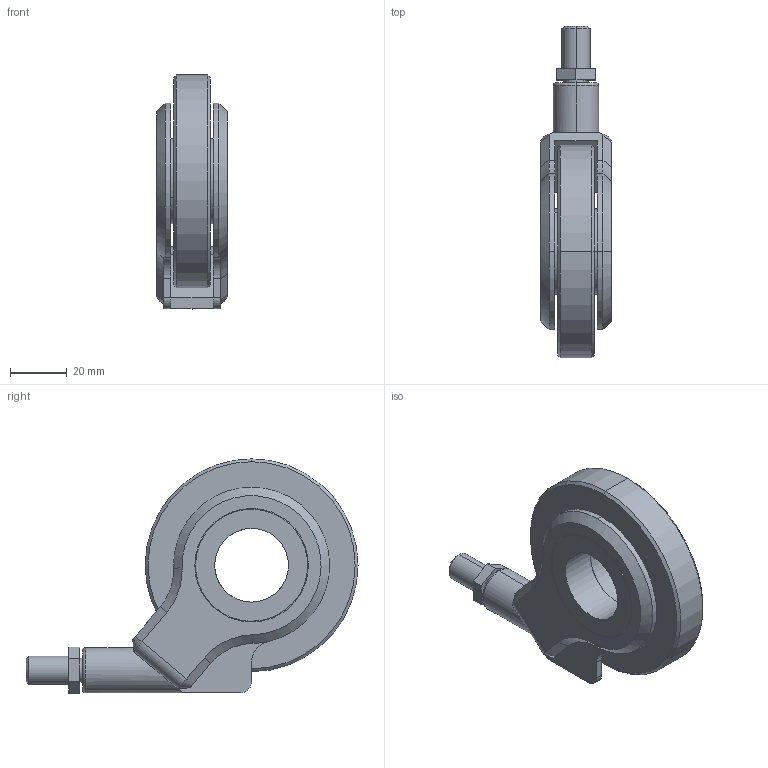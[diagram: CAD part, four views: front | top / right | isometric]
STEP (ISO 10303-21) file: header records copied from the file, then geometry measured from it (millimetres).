
FILE_DESCRIPTION (( 'STEP AP214' ), '1' );
FILE_NAME ('OLYM-75-M8 M10.STEP', '2020-03-31T11:50:30', ( '' ), ( '' ), 'SwSTEP 2.0', 'SolidWorks 2019', '' );
FILE_SCHEMA (( 'AUTOMOTIVE_DESIGN' ));
Length unit declared in the file: millimetre
Products named in the file (6): OLYM-75-P_jiku; OLYM-75-P_partsB; OLYM-75-M8 M10; 75bolt; OLYM-75-P_wheel; 75nut
Assembly tree (6 placements, depth 2):
  OLYM-75-M8 M10
    OLYM-75-P_partsB
    OLYM-75-P_wheel
    OLYM-75-P_jiku  x2
    75nut
    75bolt
Bounding box: 25 x 117 x 82.58 mm (x, y, z)
Volume: 83422.4 mm3; surface area: 32940.1 mm2
Topology: 6 solids, 6 shells, 109 faces, 251 edges, 157 vertices
Faces by surface type: plane 46, cylinder 44, cone 17, torus 2
Entity records: 3114 total; most frequent: DIRECTION 540, CARTESIAN_POINT 505, ORIENTED_EDGE 466, EDGE_CURVE 233, AXIS2_PLACEMENT_3D 204, VERTEX_POINT 145, LINE 132, VECTOR 132
